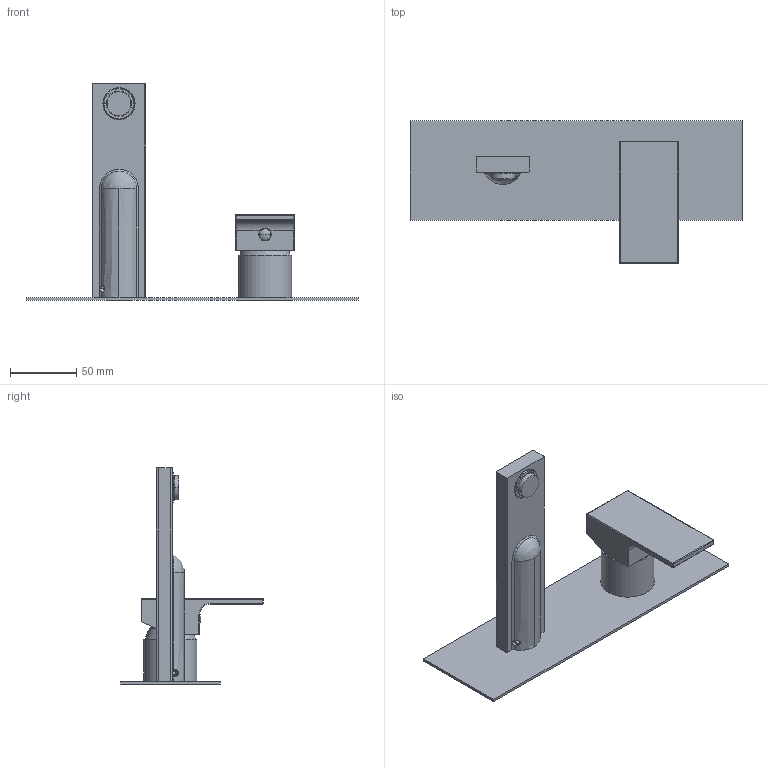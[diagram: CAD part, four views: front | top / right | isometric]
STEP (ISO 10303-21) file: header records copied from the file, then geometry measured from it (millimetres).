
FILE_DESCRIPTION((''),'2;1');
FILE_NAME('35548B_SW0001','2026-02-03T15:58:48',('carloff'),(''),'CREO PARAMETRIC BY PTC INC, 2022014','CREO PARAMETRIC BY PTC INC, 2022014','');
FILE_SCHEMA(('CONFIG_CONTROL_DESIGN'));
Products named in the file (1): 35548B_SW0001
Bounding box: 250 x 107.5 x 163 mm (x, y, z)
Volume: 174265.5 mm3; surface area: 110748.6 mm2
Topology: 3 solids, 3 shells, 900 faces, 2559 edges, 1668 vertices
Faces by surface type: cylinder 331, plane 320, torus 94, cone 74, bspline 63, sphere 18
Entity records: 60039 total; most frequent: CARTESIAN_POINT 36983, ORIENTED_EDGE 5100, DIRECTION 4577, EDGE_CURVE 2550, AXIS2_PLACEMENT_3D 1724, VERTEX_POINT 1668, VECTOR 1129, LINE 1129
